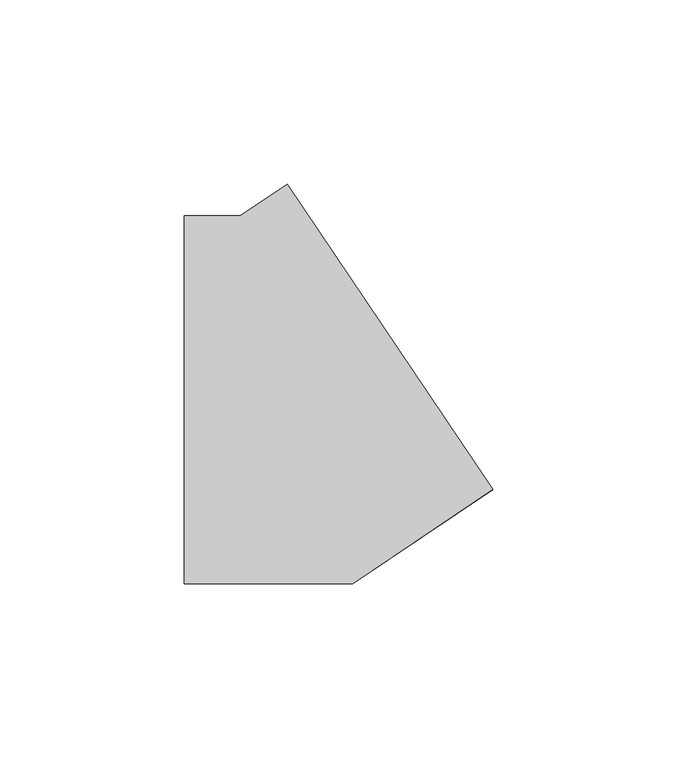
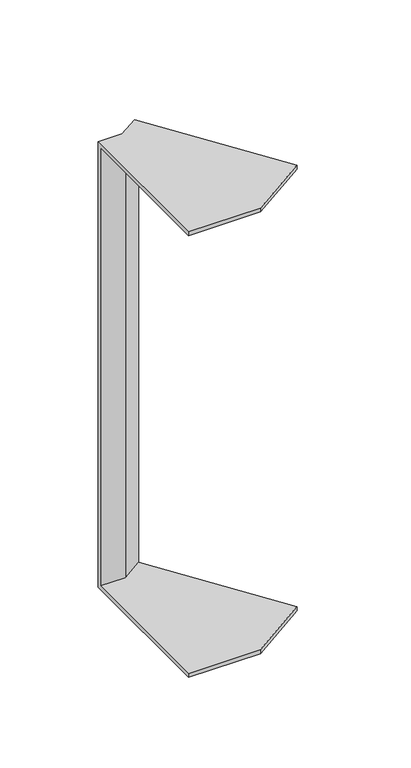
"""IFC4 building model written with IfcOpenShell, lengths in millimetres: cable carrier fitting geometry, ADSK_Поворот вертикальный наружный_Минимальный размер : Неперфорированный."""

from ifc_helpers import new_model, si_unit, origin, place, context, project, spatial, faceted_brep, source, transform, mapped, element, save


def cable_carrier_fitting_05069e89(model_context):
    return source(origin(), model_context, "Body", "Brep", [
        faceted_brep([(-30.5730681, 50.0, 150.0), (-30.5730681, 50.0, -150.0), (-30.5730681, -50.0, -150.0), (-30.5730681, -50.0, -147.46), (-30.5730681, 47.46, -147.46), (-30.5730681, 47.46, 147.46), (-30.5730681, -50.0, 147.46), (-30.5730681, -50.0, 150.0), (-2.613423, 58.5481214, 150.0), (53.3058674, -24.3556359, 150.0), (53.3058674, -24.3556359, 147.46), (-1.193073, 56.4423659, 147.46), (-1.193073, 56.4423659, -147.46), (53.3058674, -24.3556359, -147.46), (53.3058674, -24.3556359, -150.0), (-2.613423, 58.5481214, -150.0), (-15.2865341, 50.0, 150.0), (-15.2865341, 50.0, -150.0), (15.2865341, -50.0, -150.0), (15.2865341, -50.0, -147.46), (-14.5099781, 47.46, -147.46), (-14.5099781, 47.46, 147.46), (15.2865341, -50.0, 147.46), (15.2865341, -50.0, 150.0)], [[[0, 1, 2, 3, 4, 5, 6, 7]], [[8, 9, 10, 11, 12, 13, 14, 15]], [[1, 0, 16, 17]], [[2, 1, 17, 15, 14, 18]], [[3, 2, 18, 19]], [[4, 3, 19, 13, 12, 20]], [[5, 4, 20, 21]], [[6, 5, 21, 11, 10, 22]], [[7, 6, 22, 23]], [[0, 7, 23, 9, 8, 16]], [[17, 16, 8, 15]], [[19, 18, 14, 13]], [[21, 20, 12, 11]], [[23, 22, 10, 9]]]),
    ])


if __name__ == "__main__":
    model = new_model("IFC4")
    model_context = context("Model", 3, world=origin())
    ifc_project = project(units=[si_unit("LENGTHUNIT", "METRE", prefix="MILLI")], contexts=[model_context])
    site = spatial("IfcSite", under=ifc_project)
    building = spatial("IfcBuilding", under=site)
    placement = place(None, origin())
    cable_carrier_fitting_shape = cable_carrier_fitting_05069e89(model_context)
    element("IfcCableCarrierFitting", 1, ObjectType="ADSK_Поворот вертикальный наружный_Минимальный размер : Неперфорированный", at=placement, inside=building, context=model_context, shape_type="MappedRepresentation", body=[
        mapped(cable_carrier_fitting_shape, transform((0.0, 0.0, 0.0), x_axis=(1.0, 0.0, 0.0), y_axis=(0.0, 1.0, 0.0), z_axis=(0.0, 0.0, 1.0))),
    ])
    save(model, "model.ifc")
